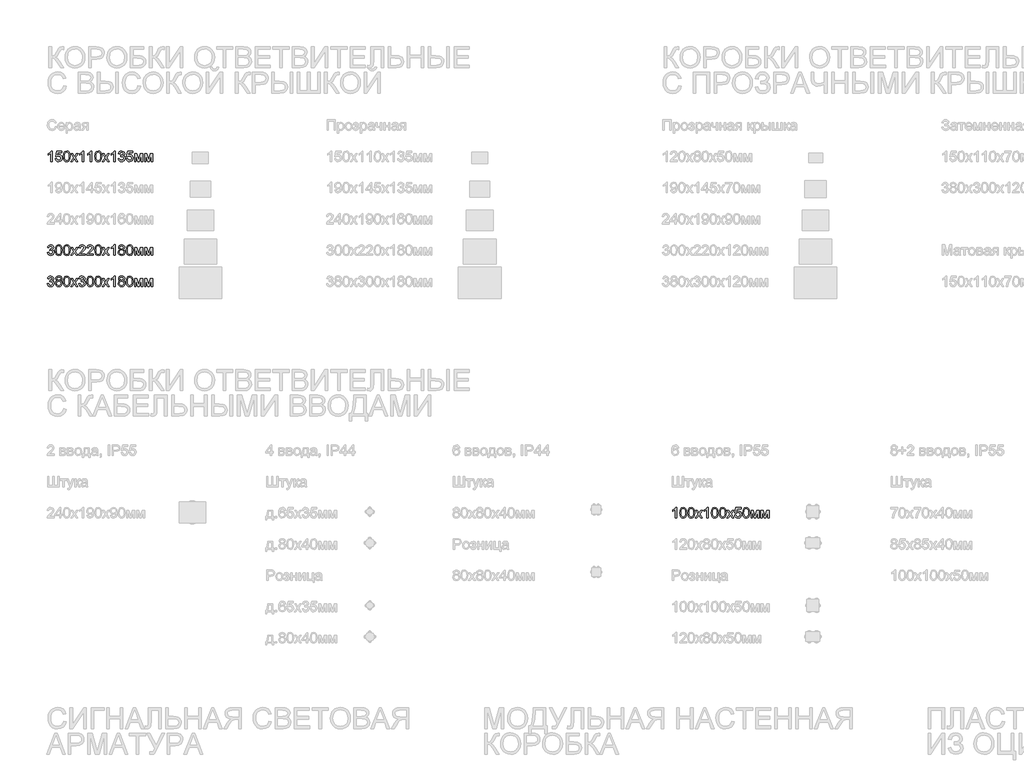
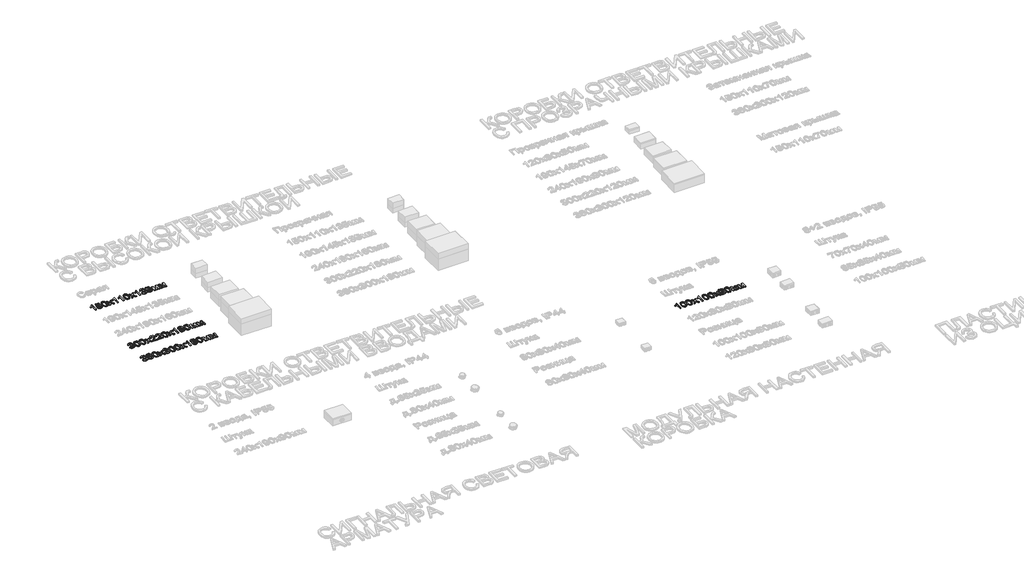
# One storey, part 16 of 98: 4 proxies.
"""IFC4 building model written with IfcOpenShell, lengths in millimetres."""

import ifcopenshell
import ifcopenshell.guid

model = None  # the IFC model being written
_history = None  # IfcOwnerHistory: only IFC2X3 demands one
_inside = {}  # id of a spatial element -> (the spatial element, [elements in it])
_under = {}  # id of a project, library or spatial element -> (it, [spatial elements below it])
_declared = {}  # id of a project -> (the project, [libraries it declares])
_typed = {}  # id of a type object -> (the type object, [elements of that type])
_made_of = {}  # id of a material, layer set ... -> (it, [elements and type objects made of it])


def new_model(schema):
    """Start an empty IFC model of exactly this schema.

    Asked for "IFC4X3", IfcOpenShell would pick the latest addendum, in which some entities
    have other attributes; the version numbers below select the first issue.
    IFC2X3 requires an IfcOwnerHistory on every rooted entity: one is made here for all.
    """
    global model, _history
    if schema == "IFC4X3":
        model = ifcopenshell.file(schema_version=(4, 3, 0, 0))
    else:
        model = ifcopenshell.file(schema=schema)
    _inside.clear()
    _under.clear()
    _declared.clear()
    _typed.clear()
    _made_of.clear()
    _history = None
    if model.schema == "IFC2X3":
        org = make("IfcOrganization", Name="unknown")
        user = make(
            "IfcPersonAndOrganization",
            ThePerson=make("IfcPerson", FamilyName="unknown"),
            TheOrganization=org,
        )
        app = make(
            "IfcApplication",
            ApplicationDeveloper=org,
            Version="unknown",
            ApplicationFullName="unknown",
            ApplicationIdentifier="unknown",
        )
        _history = make(
            "IfcOwnerHistory",
            OwningUser=user,
            OwningApplication=app,
            ChangeAction="ADDED",
            CreationDate=0,
        )
    return model


def make(cls, **values):
    """One entity of the class cls with the attributes given. An attribute that is None is left unset."""
    return model.create_entity(
        cls, **{name: value for name, value in values.items() if value is not None}
    )


def rooted(cls, **values):
    """An entity with a GlobalId (a new one), such as an element, a storey or a relation."""
    return make(cls, GlobalId=ifcopenshell.guid.new(), OwnerHistory=_history, **values)


def si_unit(unit_type, name, prefix=None):
    """IfcSIUnit, for example si_unit("LENGTHUNIT", "METRE", prefix="MILLI")."""
    return make("IfcSIUnit", UnitType=unit_type, Prefix=prefix, Name=name)


def assignment(units):
    """IfcUnitAssignment: the units of a project."""
    return None if units is None else make("IfcUnitAssignment", Units=units)


def point(xyz):
    """IfcCartesianPoint."""
    return None if xyz is None else make("IfcCartesianPoint", Coordinates=xyz)


def direction(xyz):
    """IfcDirection."""
    return None if xyz is None else make("IfcDirection", DirectionRatios=xyz)


def frame(location, z_axis=None, x_axis=None):
    """IfcAxis2Placement3D, a coordinate frame: its origin and axes. An axis left out is left unset."""
    return make(
        "IfcAxis2Placement3D",
        Location=point(location),
        Axis=direction(z_axis),
        RefDirection=direction(x_axis),
    )


def origin():
    """The frame at (0, 0, 0) with its axes left unset."""
    return frame((0.0, 0.0, 0.0))


def origin_with_axes():
    """The frame at (0, 0, 0) with the z axis (0, 0, 1) and the x axis (1, 0, 0) written out."""
    return frame((0.0, 0.0, 0.0), z_axis=(0.0, 0.0, 1.0), x_axis=(1.0, 0.0, 0.0))


def place(relative_to, where):
    """IfcLocalPlacement: puts the frame where relative to a parent placement (None: the world)."""
    return make(
        "IfcLocalPlacement", PlacementRelTo=relative_to, RelativePlacement=where
    )


def context(
    kind, dimensions, precision=None, world=None, true_north=None, identifier=None
):
    """IfcGeometricRepresentationContext, for example the 3D "Model" context."""
    return make(
        "IfcGeometricRepresentationContext",
        ContextIdentifier=identifier,
        ContextType=kind,
        CoordinateSpaceDimension=dimensions,
        Precision=precision,
        WorldCoordinateSystem=world,
        TrueNorth=true_north,
    )


def project(units=None, contexts=None):
    """IfcProject with its units and contexts."""
    return rooted(
        "IfcProject",
        Name="project",
        RepresentationContexts=contexts,
        UnitsInContext=assignment(units),
    )


def spatial(cls, under=None, at=None, **own):
    """A site, building, storey or space (cls), placed at a placement, below another one or the project."""
    s = rooted(cls, ObjectPlacement=at, **own)
    if under is not None:
        _under.setdefault(under.id(), (under, []))[1].append(s)
    return s


def polyline(points):
    """IfcPolyline through the points."""
    return make("IfcPolyline", Points=[point(p) for p in points])


def outline(outer, holes=None, kind="AREA"):
    """IfcArbitraryClosedProfileDef: a profile drawn as a closed curve; with holes, ...WithVoids."""
    if holes is None:
        return make("IfcArbitraryClosedProfileDef", ProfileType=kind, OuterCurve=outer)
    return make(
        "IfcArbitraryProfileDefWithVoids",
        ProfileType=kind,
        OuterCurve=outer,
        InnerCurves=holes,
    )


def extrude(swept, where, along, depth):
    """IfcExtrudedAreaSolid: the profile swept, set in the frame where, extruded along a direction by depth."""
    return make(
        "IfcExtrudedAreaSolid",
        SweptArea=swept,
        Position=where,
        ExtrudedDirection=direction(along),
        Depth=depth,
    )


def shape(context_of_items, identifier, shape_type, items):
    """IfcShapeRepresentation: the items that make up one representation, for example the "Body"."""
    return make(
        "IfcShapeRepresentation",
        ContextOfItems=context_of_items,
        RepresentationIdentifier=identifier,
        RepresentationType=shape_type,
        Items=items,
    )


def made_of(thing, what):
    """Note that an element or type object is made of a material, layer set ...; save() writes the relation."""
    if what is not None:
        _made_of.setdefault(what.id(), (what, []))[1].append(thing)
    return thing


def element(
    cls,
    number,
    at=None,
    inside=None,
    cuts=None,
    type_object=None,
    material=None,
    context=None,
    identifier="Body",
    shape_type=None,
    held_by="IfcProductDefinitionShape",
    body=None,
    shapes=None,
    **own,
):
    """One element of the class cls, such as IfcWall. Its Tag is "e" and its number.

    at: its placement. inside: the storey or other place that contains it. cuts: it is an
    opening in that element (IfcRelVoidsElement). A single representation is given by context,
    identifier, shape_type and body (its items); several are given by shapes. held_by: the class
    of the entity that holds the representations. save() writes the other relations.
    """
    e = rooted(cls, Tag="e%d" % number, ObjectPlacement=at, **own)
    if body is not None:
        shapes = [shape(context, identifier, shape_type, body)]
    if shapes is not None:
        e.Representation = make(held_by, Representations=shapes)
    if inside is not None:
        _inside.setdefault(inside.id(), (inside, []))[1].append(e)
    if cuts is not None:
        rooted(
            "IfcRelVoidsElement", RelatingBuildingElement=cuts, RelatedOpeningElement=e
        )
    if type_object is not None:
        _typed.setdefault(type_object.id(), (type_object, []))[1].append(e)
    return made_of(e, material)


def aggregate(whole, parts):
    """IfcRelAggregates: a whole, such as a stair, and the parts it consists of."""
    return rooted("IfcRelAggregates", RelatingObject=whole, RelatedObjects=parts)


def save(model, path):
    """Write the relations noted so far, then the file.

    IfcRelAggregates (storeys below a building ...), IfcRelContainedInSpatialStructure (elements
    in a storey), IfcRelDefinesByType, IfcRelAssociatesMaterial and IfcRelDeclares: one each for
    every whole, place, type object, material and project.
    """
    for whole, parts in _under.values():
        aggregate(whole, parts)
    for where, things in _inside.values():
        rooted(
            "IfcRelContainedInSpatialStructure",
            RelatedElements=things,
            RelatingStructure=where,
        )
    for kind, things in _typed.values():
        rooted("IfcRelDefinesByType", RelatedObjects=things, RelatingType=kind)
    for what, things in _made_of.values():
        rooted("IfcRelAssociatesMaterial", RelatedObjects=things, RelatingMaterial=what)
    for by, libraries in _declared.values():
        rooted("IfcRelDeclares", RelatingContext=by, RelatedDefinitions=libraries)
    model.write(path)


model = new_model("IFC4")

# Units and contexts
model_context = context("Model", 3, world=origin())
ifc_project = project(units=[si_unit("LENGTHUNIT", "METRE", prefix="MILLI")], contexts=[model_context])

# Site, building, storey
site = spatial("IfcSite", under=ifc_project)
building = spatial("IfcBuilding", under=site)
storey = spatial("IfcBuildingStorey", under=building, Name="Этаж 01", Elevation=0.0)

# Proxies
placement = place(None, origin())
element("IfcBuildingElementProxy", 1, Name="100", ObjectType="100", at=placement, inside=storey, context=model_context, shape_type="SweptSolid", body=[
    extrude(outline(polyline([(5.9764133, -42337.5373486), (-6.5806255, -42337.5373486), (-6.5806255, -42259.25206), (-18.4754766, -42267.7256087), (-31.694703, -42274.0654417), (-31.694703, -42262.195116), (-13.2883405, -42250.4474176), (-2.1169906, -42237.0810385), (5.9764133, -42237.0810385), (5.9764133, -42337.5373486)])), origin_with_axes(), (0.0, 0.0, 1.0), 10.0),
    extrude(outline(polyline([(35.7993804, -42310.8536412), (48.3564191, -42309.2840114), (54.6839895, -42322.2211949), (67.805114, -42326.5499397), (76.8059601, -42325.0446892), (83.5504633, -42320.5289377), (87.7627122, -42313.5238514), (89.1667951, -42304.5505964), (83.9060826, -42289.6391128), (77.2995351, -42285.5372286), (68.0013177, -42284.1699338), (56.9771206, -42286.3527004), (49.926049, -42292.0180831), (37.3690102, -42290.4484532), (48.3564191, -42238.6506683), (97.0149444, -42238.6506683), (97.0149444, -42251.2077071), (58.5099622, -42251.2077071), (53.1388851, -42278.8724331), (62.1090744, -42273.4277796), (71.5084594, -42271.6128951), (83.2408293, -42273.8631066), (92.9805052, -42280.6137412), (99.5380017, -42290.9021744), (101.7238339, -42303.7657815), (99.7556652, -42316.3228202), (93.8511592, -42327.0649745), (82.5449192, -42336.0964775), (67.756063, -42339.1069785), (55.4228191, -42337.1725323), (45.5973042, -42331.3691938), (38.861998, -42322.3714134), (35.7993804, -42310.8536412)])), origin_with_axes(), (0.0, 0.0, 1.0), 10.0),
    extrude(outline(polyline([(112.7112428, -42288.1185339), (116.4023255, -42259.2152718), (127.365209, -42242.5502175), (145.6734696, -42237.0810385), (160.3396985, -42240.3184), (170.4687161, -42249.65034), (176.354828, -42264.5127726), (178.6356964, -42288.1185339), (174.9814019, -42316.8991687), (164.0553066, -42333.6010113), (155.823947, -42337.7304867), (145.6734696, -42339.1069785), (132.6259215, -42336.7157455), (122.7176331, -42329.5420466), (115.2128404, -42312.5520298), (112.7112428, -42288.1185339)]), holes=[polyline([(125.2682816, -42288.0940085), (126.7398096, -42307.8462059), (131.1543935, -42319.2781389), (137.7272185, -42324.7319895), (145.6734696, -42326.5499397), (153.6197207, -42324.7258581), (160.1925457, -42319.2536135), (164.6071296, -42307.8155491), (166.0786576, -42288.0940085), (164.6561806, -42268.7863351), (160.3887494, -42257.2654973), (153.8281872, -42251.5449322), (145.5263168, -42249.6380772), (137.6659048, -42251.3180717), (131.3505973, -42256.358055), (126.7888605, -42268.5962627), (125.2682816, -42288.0940085)])]), origin_with_axes(), (0.0, 0.0, 1.0), 10.0),
    extrude(outline(polyline([(184.9142158, -42337.5373486), (211.7450759, -42300.4548435), (186.4838456, -42263.7647458), (201.5915329, -42263.7647458), (213.7806896, -42281.4230816), (219.4705978, -42289.7617402), (224.4002166, -42282.9436605), (238.2816305, -42263.7647458), (253.3893178, -42263.7647458), (226.8527632, -42300.4548435), (252.4082991, -42337.5373486), (237.3006119, -42337.5373486), (221.9231445, -42315.2436997), (219.1027158, -42311.1724723), (200.021903, -42337.5373486), (184.9142158, -42337.5373486)])), origin_with_axes(), (0.0, 0.0, 1.0), 10.0),
    extrude(outline(polyline([(307.3453437, -42337.5373486), (294.788305, -42337.5373486), (294.788305, -42259.25206), (282.8934538, -42267.7256087), (269.6742274, -42274.0654417), (269.6742274, -42262.195116), (288.0805899, -42250.4474176), (299.2519399, -42237.0810385), (307.3453437, -42237.0810385), (307.3453437, -42337.5373486)])), origin_with_axes(), (0.0, 0.0, 1.0), 10.0),
    extrude(outline(polyline([(384.2572062, -42337.5373486), (371.7001674, -42337.5373486), (371.7001674, -42259.25206), (359.8053163, -42267.7256087), (346.5860899, -42274.0654417), (346.5860899, -42262.195116), (364.9924524, -42250.4474176), (376.1638023, -42237.0810385), (384.2572062, -42237.0810385), (384.2572062, -42337.5373486)])), origin_with_axes(), (0.0, 0.0, 1.0), 10.0),
    extrude(outline(polyline([(414.0801733, -42288.1185339), (417.771256, -42259.2152718), (428.7341394, -42242.5502175), (447.0424, -42237.0810385), (461.7086289, -42240.3184), (471.8376465, -42249.65034), (477.7237584, -42264.5127726), (480.0046268, -42288.1185339), (476.3503323, -42316.8991687), (465.4242371, -42333.6010113), (457.1928774, -42337.7304867), (447.0424, -42339.1069785), (433.994852, -42336.7157455), (424.0865635, -42329.5420466), (416.5817708, -42312.5520298), (414.0801733, -42288.1185339)]), holes=[polyline([(426.637212, -42288.0940085), (428.10874, -42307.8462059), (432.523324, -42319.2781389), (439.096149, -42324.7319895), (447.0424, -42326.5499397), (454.9886511, -42324.7258581), (461.5614761, -42319.2536135), (465.9760601, -42307.8155491), (467.447588, -42288.0940085), (466.025111, -42268.7863351), (461.7576799, -42257.2654973), (455.1971176, -42251.5449322), (446.8952472, -42249.6380772), (439.0348353, -42251.3180717), (432.7195277, -42256.358055), (428.157791, -42268.5962627), (426.637212, -42288.0940085)])]), origin_with_axes(), (0.0, 0.0, 1.0), 10.0),
    extrude(outline(polyline([(486.2831462, -42337.5373486), (513.1140064, -42300.4548435), (487.852776, -42263.7647458), (502.9604633, -42263.7647458), (515.1496201, -42281.4230816), (520.8395283, -42289.7617402), (525.769147, -42282.9436605), (539.650561, -42263.7647458), (554.7582482, -42263.7647458), (528.2216937, -42300.4548435), (553.7772296, -42337.5373486), (538.6695423, -42337.5373486), (523.2920749, -42315.2436997), (520.4716463, -42311.1724723), (501.3908335, -42337.5373486), (486.2831462, -42337.5373486)])), origin_with_axes(), (0.0, 0.0, 1.0), 10.0),
    extrude(outline(polyline([(608.7142742, -42337.5373486), (596.1572354, -42337.5373486), (596.1572354, -42259.25206), (584.2623842, -42267.7256087), (571.0431579, -42274.0654417), (571.0431579, -42262.195116), (589.4495204, -42250.4474176), (600.6208703, -42237.0810385), (608.7142742, -42237.0810385), (608.7142742, -42337.5373486)])), origin_with_axes(), (0.0, 0.0, 1.0), 10.0),
    extrude(outline(polyline([(638.5372413, -42310.8536412), (651.09428, -42309.2840114), (658.0227243, -42322.5032377), (670.9844332, -42326.5499397), (679.5928719, -42325.1581195), (686.2392733, -42320.9826588), (691.904656, -42307.1993467), (686.2883242, -42294.2131123), (672.0145028, -42289.0750271), (663.2098604, -42290.4484532), (664.607812, -42277.8914145), (666.6189002, -42278.0385673), (680.8681962, -42274.4333237), (685.6138739, -42269.8593242), (687.1957665, -42263.3478129), (682.6095043, -42253.5253636), (670.7882295, -42249.6380772), (658.8198019, -42253.5621518), (652.6639099, -42265.3343757), (640.1068711, -42263.7647458), (643.8040852, -42252.4891627), (650.3830415, -42244.0707964), (659.3838877, -42238.8284779), (670.3467711, -42237.0810385), (685.4912466, -42240.5268665), (696.086248, -42249.9446456), (699.7528053, -42262.6120489), (696.270189, -42274.188069), (685.9694932, -42282.5022021), (699.6547034, -42291.0861154), (704.4616948, -42307.4200759), (702.0581991, -42319.6582836), (694.847712, -42329.8854031), (683.9645363, -42336.8015846), (670.5429749, -42339.1069785), (658.402869, -42337.1388098), (648.5191061, -42331.2343038), (641.6458441, -42322.2028008), (638.5372413, -42310.8536412)])), origin_with_axes(), (0.0, 0.0, 1.0), 10.0),
    extrude(outline(polyline([(715.4491037, -42310.8536412), (728.0061425, -42309.2840114), (734.3337128, -42322.2211949), (747.4548373, -42326.5499397), (756.4556835, -42325.0446892), (763.2001867, -42320.5289377), (767.4124355, -42313.5238514), (768.8165185, -42304.5505964), (763.555806, -42289.6391128), (756.9492585, -42285.5372286), (747.651041, -42284.1699338), (736.6268439, -42286.3527004), (729.5757723, -42292.0180831), (717.0187336, -42290.4484532), (728.0061425, -42238.6506683), (776.6646677, -42238.6506683), (776.6646677, -42251.2077071), (738.1596856, -42251.2077071), (732.7886084, -42278.8724331), (741.7587978, -42273.4277796), (751.1581827, -42271.6128951), (762.8905527, -42273.8631066), (772.6302285, -42280.6137412), (779.1877251, -42290.9021744), (781.3735573, -42303.7657815), (779.4053886, -42316.3228202), (773.5008826, -42327.0649745), (762.1946426, -42336.0964775), (747.4057864, -42339.1069785), (735.0725425, -42337.1725323), (725.2470275, -42331.3691938), (718.5117213, -42322.3714134), (715.4491037, -42310.8536412)])), origin_with_axes(), (0.0, 0.0, 1.0), 10.0),
    extrude(outline(polyline([(795.5002259, -42263.7647458), (817.1071617, -42263.7647458), (833.7599534, -42322.8220688), (851.7125947, -42263.7647458), (872.4120883, -42263.7647458), (872.4120883, -42337.5373486), (859.8550496, -42337.5373486), (859.8550496, -42278.1366691), (841.8043063, -42337.5373486), (825.323193, -42337.5373486), (808.0572646, -42275.291715), (808.0572646, -42337.5373486), (795.5002259, -42337.5373486), (795.5002259, -42263.7647458)])), origin_with_axes(), (0.0, 0.0, 1.0), 10.0),
    extrude(outline(polyline([(891.2476465, -42263.7647458), (912.8545823, -42263.7647458), (929.507374, -42322.8220688), (947.4600154, -42263.7647458), (968.1595089, -42263.7647458), (968.1595089, -42337.5373486), (955.6024702, -42337.5373486), (955.6024702, -42278.1366691), (937.551727, -42337.5373486), (921.0706136, -42337.5373486), (903.8046853, -42275.291715), (903.8046853, -42337.5373486), (891.2476465, -42337.5373486), (891.2476465, -42263.7647458)])), origin_with_axes(), (0.0, 0.0, 1.0), 10.0),
])
element("IfcBuildingElementProxy", 2, Name="100", ObjectType="100", at=placement, inside=storey, context=model_context, shape_type="SweptSolid", body=[
    extrude(outline(polyline([(-41.1124821, -43210.8536412), (-28.5554433, -43209.2840114), (-21.6269991, -43222.5032377), (-8.6652901, -43226.5499397), (-0.0568514, -43225.1581195), (6.58955, -43220.9826588), (12.2549327, -43207.1993467), (6.6386009, -43194.2131123), (-7.6352205, -43189.0750271), (-16.4398629, -43190.4484532), (-15.0419114, -43177.8914145), (-13.0308231, -43178.0385673), (1.2184728, -43174.4333237), (5.9641506, -43169.8593242), (7.5460431, -43163.3478129), (2.9597809, -43153.5253636), (-8.8614938, -43149.6380772), (-20.8299214, -43153.5621518), (-26.9858135, -43165.3343757), (-39.5428522, -43163.7647458), (-35.8456382, -43152.4891627), (-29.2666818, -43144.0707964), (-20.2658357, -43138.8284779), (-9.3029522, -43137.0810385), (5.8415232, -43140.5268665), (16.4365247, -43149.9446456), (20.1030819, -43162.6120489), (16.6204657, -43174.188069), (6.3197698, -43182.5022021), (20.00498, -43191.0861154), (24.8119715, -43207.4200759), (22.4084757, -43219.6582836), (15.1979886, -43229.8854031), (4.314813, -43236.8015846), (-9.1067485, -43239.1069785), (-21.2468543, -43237.1388098), (-31.1306173, -43231.2343038), (-38.0038792, -43222.2028008), (-41.1124821, -43210.8536412)])), origin_with_axes(), (0.0, 0.0, 1.0), 10.0),
    extrude(outline(polyline([(35.7993804, -43188.1185339), (39.4904631, -43159.2152718), (50.4533465, -43142.5502175), (68.7616071, -43137.0810385), (83.427836, -43140.3184), (93.5568536, -43149.65034), (99.4429655, -43164.5127726), (101.7238339, -43188.1185339), (98.0695394, -43216.8991687), (87.1434442, -43233.6010113), (78.9120845, -43237.7304867), (68.7616071, -43239.1069785), (55.714059, -43236.7157455), (45.8057706, -43229.5420466), (38.3009779, -43212.5520298), (35.7993804, -43188.1185339)]), holes=[polyline([(48.3564191, -43188.0940085), (49.8279471, -43207.8462059), (54.2425311, -43219.2781389), (60.815356, -43224.7319895), (68.7616071, -43226.5499397), (76.7078582, -43224.7258581), (83.2806832, -43219.2536135), (87.6952672, -43207.8155491), (89.1667951, -43188.0940085), (87.7443181, -43168.7863351), (83.4768869, -43157.2654973), (76.9163247, -43151.5449322), (68.6144543, -43149.6380772), (60.7540424, -43151.3180717), (54.4387348, -43156.358055), (49.8769981, -43168.5962627), (48.3564191, -43188.0940085)])]), origin_with_axes(), (0.0, 0.0, 1.0), 10.0),
    extrude(outline(polyline([(112.7112428, -43188.1185339), (116.4023255, -43159.2152718), (127.365209, -43142.5502175), (145.6734696, -43137.0810385), (160.3396985, -43140.3184), (170.4687161, -43149.65034), (176.354828, -43164.5127726), (178.6356964, -43188.1185339), (174.9814019, -43216.8991687), (164.0553066, -43233.6010113), (155.823947, -43237.7304867), (145.6734696, -43239.1069785), (132.6259215, -43236.7157455), (122.7176331, -43229.5420466), (115.2128404, -43212.5520298), (112.7112428, -43188.1185339)]), holes=[polyline([(125.2682816, -43188.0940085), (126.7398096, -43207.8462059), (131.1543935, -43219.2781389), (137.7272185, -43224.7319895), (145.6734696, -43226.5499397), (153.6197207, -43224.7258581), (160.1925457, -43219.2536135), (164.6071296, -43207.8155491), (166.0786576, -43188.0940085), (164.6561806, -43168.7863351), (160.3887494, -43157.2654973), (153.8281872, -43151.5449322), (145.5263168, -43149.6380772), (137.6659048, -43151.3180717), (131.3505973, -43156.358055), (126.7888605, -43168.5962627), (125.2682816, -43188.0940085)])]), origin_with_axes(), (0.0, 0.0, 1.0), 10.0),
    extrude(outline(polyline([(184.9142158, -43237.5373486), (211.7450759, -43200.4548435), (186.4838456, -43163.7647458), (201.5915329, -43163.7647458), (213.7806896, -43181.4230816), (219.4705978, -43189.7617402), (224.4002166, -43182.9436605), (238.2816305, -43163.7647458), (253.3893178, -43163.7647458), (226.8527632, -43200.4548435), (252.4082991, -43237.5373486), (237.3006119, -43237.5373486), (221.9231445, -43215.2436997), (219.1027158, -43211.1724723), (200.021903, -43237.5373486), (184.9142158, -43237.5373486)])), origin_with_axes(), (0.0, 0.0, 1.0), 10.0),
    extrude(outline(polyline([(324.6112721, -43224.9803098), (324.6112721, -43237.5373486), (258.6868185, -43237.5373486), (260.0357192, -43228.879859), (267.6631392, -43215.550268), (283.3839631, -43200.9944038), (305.0644754, -43180.074181), (310.4846034, -43165.8494105), (305.3710437, -43154.334704), (292.0169273, -43149.6380772), (278.0987251, -43154.2243394), (272.8134871, -43166.9040055), (260.2564484, -43165.3343757), (263.3006719, -43153.1881385), (269.8826939, -43144.316051), (279.6591579, -43138.8897916), (292.2867074, -43137.0810385), (305.0062274, -43139.0921267), (314.7642973, -43145.1253914), (320.972306, -43154.1385003), (323.0416422, -43165.089121), (320.8098248, -43176.9962349), (313.3908712, -43189.308019), (295.4014416, -43206.5126337), (280.955942, -43218.5914259), (275.2905592, -43224.9803098), (324.6112721, -43224.9803098)])), origin_with_axes(), (0.0, 0.0, 1.0), 10.0),
    extrude(outline(polyline([(401.5231345, -43224.9803098), (401.5231345, -43237.5373486), (335.598681, -43237.5373486), (336.9475816, -43228.879859), (344.5750017, -43215.550268), (360.2958256, -43200.9944038), (381.9763378, -43180.074181), (387.3964659, -43165.8494105), (382.2829062, -43154.334704), (368.9287897, -43149.6380772), (355.0105876, -43154.2243394), (349.7253496, -43166.9040055), (337.1683108, -43165.3343757), (340.2125343, -43153.1881385), (346.7945564, -43144.316051), (356.5710204, -43138.8897916), (369.1985699, -43137.0810385), (381.9180899, -43139.0921267), (391.6761598, -43145.1253914), (397.8841684, -43154.1385003), (399.9535047, -43165.089121), (397.7216872, -43176.9962349), (390.3027337, -43189.308019), (372.3133041, -43206.5126337), (357.8678044, -43218.5914259), (352.2024217, -43224.9803098), (401.5231345, -43224.9803098)])), origin_with_axes(), (0.0, 0.0, 1.0), 10.0),
    extrude(outline(polyline([(414.0801733, -43188.1185339), (417.771256, -43159.2152718), (428.7341394, -43142.5502175), (447.0424, -43137.0810385), (461.7086289, -43140.3184), (471.8376465, -43149.65034), (477.7237584, -43164.5127726), (480.0046268, -43188.1185339), (476.3503323, -43216.8991687), (465.4242371, -43233.6010113), (457.1928774, -43237.7304867), (447.0424, -43239.1069785), (433.994852, -43236.7157455), (424.0865635, -43229.5420466), (416.5817708, -43212.5520298), (414.0801733, -43188.1185339)]), holes=[polyline([(426.637212, -43188.0940085), (428.10874, -43207.8462059), (432.523324, -43219.2781389), (439.096149, -43224.7319895), (447.0424, -43226.5499397), (454.9886511, -43224.7258581), (461.5614761, -43219.2536135), (465.9760601, -43207.8155491), (467.447588, -43188.0940085), (466.025111, -43168.7863351), (461.7576799, -43157.2654973), (455.1971176, -43151.5449322), (446.8952472, -43149.6380772), (439.0348353, -43151.3180717), (432.7195277, -43156.358055), (428.157791, -43168.5962627), (426.637212, -43188.0940085)])]), origin_with_axes(), (0.0, 0.0, 1.0), 10.0),
    extrude(outline(polyline([(486.2831462, -43237.5373486), (513.1140064, -43200.4548435), (487.852776, -43163.7647458), (502.9604633, -43163.7647458), (515.1496201, -43181.4230816), (520.8395283, -43189.7617402), (525.769147, -43182.9436605), (539.650561, -43163.7647458), (554.7582482, -43163.7647458), (528.2216937, -43200.4548435), (553.7772296, -43237.5373486), (538.6695423, -43237.5373486), (523.2920749, -43215.2436997), (520.4716463, -43211.1724723), (501.3908335, -43237.5373486), (486.2831462, -43237.5373486)])), origin_with_axes(), (0.0, 0.0, 1.0), 10.0),
    extrude(outline(polyline([(608.7142742, -43237.5373486), (596.1572354, -43237.5373486), (596.1572354, -43159.25206), (584.2623842, -43167.7256087), (571.0431579, -43174.0654417), (571.0431579, -43162.195116), (589.4495204, -43150.4474176), (600.6208703, -43137.0810385), (608.7142742, -43137.0810385), (608.7142742, -43237.5373486)])), origin_with_axes(), (0.0, 0.0, 1.0), 10.0),
    extrude(outline(polyline([(656.8332392, -43182.2078965), (645.3921091, -43174.4087982), (641.676501, -43162.2686924), (643.6998519, -43152.4523745), (649.7699049, -43144.3405765), (659.206078, -43138.895923), (671.3277898, -43137.0810385), (683.5230779, -43138.9388425), (693.0818784, -43144.5122548), (699.2622959, -43152.7528115), (701.3224351, -43162.6120489), (697.6558779, -43174.4455864), (686.5335789, -43182.2078965), (699.8876953, -43192.0548713), (704.4616948, -43208.3029927), (702.1930892, -43220.3082085), (695.3872723, -43230.2287596), (684.8781099, -43236.8874238), (671.499468, -43239.1069785), (658.1208261, -43236.8782267), (647.6116638, -43230.1919714), (640.8058469, -43220.1763841), (638.5372413, -43207.9596362), (643.2951817, -43191.33137), (656.8332392, -43182.2078965)]), holes=[polyline([(654.2335397, -43162.6365744), (658.6849119, -43172.4958119), (671.6466208, -43176.3217846), (684.3508124, -43172.5203373), (688.7653963, -43163.2006601), (684.2036596, -43153.5498891), (671.499468, -43149.6380772), (658.7584883, -43153.46405), (654.2335397, -43162.6365744)]), polyline([(651.09428, -43207.5181778), (653.1912074, -43216.9727451), (660.610161, -43224.0483421), (671.5975699, -43226.5499397), (680.1446949, -43225.2347616), (686.5581044, -43221.2892272), (691.904656, -43207.9105853), (686.3864261, -43194.274426), (679.8258639, -43190.227724), (671.180637, -43188.8788234), (662.7530736, -43190.2093299), (656.4040435, -43194.2008496), (651.09428, -43207.5181778)])]), origin_with_axes(), (0.0, 0.0, 1.0), 10.0),
    extrude(outline(polyline([(715.4491037, -43188.1185339), (719.1401864, -43159.2152718), (730.1030699, -43142.5502175), (748.4113305, -43137.0810385), (763.0775594, -43140.3184), (773.206577, -43149.65034), (779.0926889, -43164.5127726), (781.3735573, -43188.1185339), (777.7192628, -43216.8991687), (766.7931675, -43233.6010113), (758.5618079, -43237.7304867), (748.4113305, -43239.1069785), (735.3637824, -43236.7157455), (725.455494, -43229.5420466), (717.9507013, -43212.5520298), (715.4491037, -43188.1185339)]), holes=[polyline([(728.0061425, -43188.0940085), (729.4776705, -43207.8462059), (733.8922544, -43219.2781389), (740.4650794, -43224.7319895), (748.4113305, -43226.5499397), (756.3575816, -43224.7258581), (762.9304066, -43219.2536135), (767.3449905, -43207.8155491), (768.8165185, -43188.0940085), (767.3940414, -43168.7863351), (763.1266103, -43157.2654973), (756.5660481, -43151.5449322), (748.2641777, -43149.6380772), (740.4037657, -43151.3180717), (734.0884582, -43156.358055), (729.5267214, -43168.5962627), (728.0061425, -43188.0940085)])]), origin_with_axes(), (0.0, 0.0, 1.0), 10.0),
    extrude(outline(polyline([(795.5002259, -43163.7647458), (817.1071617, -43163.7647458), (833.7599534, -43222.8220688), (851.7125947, -43163.7647458), (872.4120883, -43163.7647458), (872.4120883, -43237.5373486), (859.8550496, -43237.5373486), (859.8550496, -43178.1366691), (841.8043063, -43237.5373486), (825.323193, -43237.5373486), (808.0572646, -43175.291715), (808.0572646, -43237.5373486), (795.5002259, -43237.5373486), (795.5002259, -43163.7647458)])), origin_with_axes(), (0.0, 0.0, 1.0), 10.0),
    extrude(outline(polyline([(891.2476465, -43163.7647458), (912.8545823, -43163.7647458), (929.507374, -43222.8220688), (947.4600154, -43163.7647458), (968.1595089, -43163.7647458), (968.1595089, -43237.5373486), (955.6024702, -43237.5373486), (955.6024702, -43178.1366691), (937.551727, -43237.5373486), (921.0706136, -43237.5373486), (903.8046853, -43175.291715), (903.8046853, -43237.5373486), (891.2476465, -43237.5373486), (891.2476465, -43163.7647458)])), origin_with_axes(), (0.0, 0.0, 1.0), 10.0),
])
element("IfcBuildingElementProxy", 3, Name="100", ObjectType="100", at=placement, inside=storey, context=model_context, shape_type="SweptSolid", body=[
    extrude(outline(polyline([(-41.1124821, -43510.8536412), (-28.5554433, -43509.2840114), (-21.6269991, -43522.5032377), (-8.6652901, -43526.5499397), (-0.0568514, -43525.1581195), (6.58955, -43520.9826588), (12.2549327, -43507.1993467), (6.6386009, -43494.2131123), (-7.6352205, -43489.0750271), (-16.4398629, -43490.4484532), (-15.0419114, -43477.8914145), (-13.0308231, -43478.0385673), (1.2184728, -43474.4333237), (5.9641506, -43469.8593242), (7.5460431, -43463.3478129), (2.9597809, -43453.5253636), (-8.8614938, -43449.6380772), (-20.8299214, -43453.5621518), (-26.9858135, -43465.3343757), (-39.5428522, -43463.7647458), (-35.8456382, -43452.4891627), (-29.2666818, -43444.0707964), (-20.2658357, -43438.8284779), (-9.3029522, -43437.0810385), (5.8415232, -43440.5268665), (16.4365247, -43449.9446456), (20.1030819, -43462.6120489), (16.6204657, -43474.188069), (6.3197698, -43482.5022021), (20.00498, -43491.0861154), (24.8119715, -43507.4200759), (22.4084757, -43519.6582836), (15.1979886, -43529.8854031), (4.314813, -43536.8015846), (-9.1067485, -43539.1069785), (-21.2468543, -43537.1388098), (-31.1306173, -43531.2343038), (-38.0038792, -43522.2028008), (-41.1124821, -43510.8536412)])), origin_with_axes(), (0.0, 0.0, 1.0), 10.0),
    extrude(outline(polyline([(54.0953783, -43482.2078965), (42.6542482, -43474.4087982), (38.9386401, -43462.2686924), (40.961991, -43452.4523745), (47.032044, -43444.3405765), (56.4682171, -43438.895923), (68.5899289, -43437.0810385), (80.785217, -43438.9388425), (90.3440175, -43444.5122548), (96.524435, -43452.7528115), (98.5845742, -43462.6120489), (94.918017, -43474.4455864), (83.795718, -43482.2078965), (97.1498344, -43492.0548713), (101.7238339, -43508.3029927), (99.4552283, -43520.3082085), (92.6494114, -43530.2287596), (82.140249, -43536.8874238), (68.7616071, -43539.1069785), (55.3829652, -43536.8782267), (44.8738029, -43530.1919714), (38.067986, -43520.1763841), (35.7993804, -43507.9596362), (40.5573208, -43491.33137), (54.0953783, -43482.2078965)]), holes=[polyline([(51.4956788, -43462.6365744), (55.947051, -43472.4958119), (68.9087599, -43476.3217846), (81.6129515, -43472.5203373), (86.0275354, -43463.2006601), (81.4657987, -43453.5498891), (68.7616071, -43449.6380772), (56.0206274, -43453.46405), (51.4956788, -43462.6365744)]), polyline([(48.3564191, -43507.5181778), (50.4533465, -43516.9727451), (57.8723001, -43524.0483421), (68.859709, -43526.5499397), (77.406834, -43525.2347616), (83.8202435, -43521.2892272), (89.1667951, -43507.9105853), (83.6485652, -43494.274426), (77.088003, -43490.227724), (68.4427761, -43488.8788234), (60.0152127, -43490.2093299), (53.6661826, -43494.2008496), (48.3564191, -43507.5181778)])]), origin_with_axes(), (0.0, 0.0, 1.0), 10.0),
    extrude(outline(polyline([(112.7112428, -43488.1185339), (116.4023255, -43459.2152718), (127.365209, -43442.5502175), (145.6734696, -43437.0810385), (160.3396985, -43440.3184), (170.4687161, -43449.65034), (176.354828, -43464.5127726), (178.6356964, -43488.1185339), (174.9814019, -43516.8991687), (164.0553066, -43533.6010113), (155.823947, -43537.7304867), (145.6734696, -43539.1069785), (132.6259215, -43536.7157455), (122.7176331, -43529.5420466), (115.2128404, -43512.5520298), (112.7112428, -43488.1185339)]), holes=[polyline([(125.2682816, -43488.0940085), (126.7398096, -43507.8462059), (131.1543935, -43519.2781389), (137.7272185, -43524.7319895), (145.6734696, -43526.5499397), (153.6197207, -43524.7258581), (160.1925457, -43519.2536135), (164.6071296, -43507.8155491), (166.0786576, -43488.0940085), (164.6561806, -43468.7863351), (160.3887494, -43457.2654973), (153.8281872, -43451.5449322), (145.5263168, -43449.6380772), (137.6659048, -43451.3180717), (131.3505973, -43456.358055), (126.7888605, -43468.5962627), (125.2682816, -43488.0940085)])]), origin_with_axes(), (0.0, 0.0, 1.0), 10.0),
    extrude(outline(polyline([(184.9142158, -43537.5373486), (211.7450759, -43500.4548435), (186.4838456, -43463.7647458), (201.5915329, -43463.7647458), (213.7806896, -43481.4230816), (219.4705978, -43489.7617402), (224.4002166, -43482.9436605), (238.2816305, -43463.7647458), (253.3893178, -43463.7647458), (226.8527632, -43500.4548435), (252.4082991, -43537.5373486), (237.3006119, -43537.5373486), (221.9231445, -43515.2436997), (219.1027158, -43511.1724723), (200.021903, -43537.5373486), (184.9142158, -43537.5373486)])), origin_with_axes(), (0.0, 0.0, 1.0), 10.0),
    extrude(outline(polyline([(260.2564484, -43510.8536412), (272.8134871, -43509.2840114), (279.7419314, -43522.5032377), (292.7036403, -43526.5499397), (301.312079, -43525.1581195), (307.9584804, -43520.9826588), (313.6238631, -43507.1993467), (308.0075313, -43494.2131123), (293.7337099, -43489.0750271), (284.9290675, -43490.4484532), (286.3270191, -43477.8914145), (288.3381073, -43478.0385673), (302.5874033, -43474.4333237), (307.333081, -43469.8593242), (308.9149736, -43463.3478129), (304.3287114, -43453.5253636), (292.5074366, -43449.6380772), (280.539009, -43453.5621518), (274.383117, -43465.3343757), (261.8260782, -43463.7647458), (265.5232923, -43452.4891627), (272.1022486, -43444.0707964), (281.1030948, -43438.8284779), (292.0659782, -43437.0810385), (307.2104537, -43440.5268665), (317.8054551, -43449.9446456), (321.4720124, -43462.6120489), (317.9893961, -43474.188069), (307.6887003, -43482.5022021), (321.3739105, -43491.0861154), (326.1809019, -43507.4200759), (323.7774062, -43519.6582836), (316.5669191, -43529.8854031), (305.6837434, -43536.8015846), (292.2621819, -43539.1069785), (280.1220761, -43537.1388098), (270.2383132, -43531.2343038), (263.3650512, -43522.2028008), (260.2564484, -43510.8536412)])), origin_with_axes(), (0.0, 0.0, 1.0), 10.0),
    extrude(outline(polyline([(337.1683108, -43488.1185339), (340.8593935, -43459.2152718), (351.822277, -43442.5502175), (370.1305376, -43437.0810385), (384.7967665, -43440.3184), (394.9257841, -43449.65034), (400.811896, -43464.5127726), (403.0927644, -43488.1185339), (399.4384699, -43516.8991687), (388.5123746, -43533.6010113), (380.281015, -43537.7304867), (370.1305376, -43539.1069785), (357.0829895, -43536.7157455), (347.1747011, -43529.5420466), (339.6699084, -43512.5520298), (337.1683108, -43488.1185339)]), holes=[polyline([(349.7253496, -43488.0940085), (351.1968776, -43507.8462059), (355.6114615, -43519.2781389), (362.1842865, -43524.7319895), (370.1305376, -43526.5499397), (378.0767887, -43524.7258581), (384.6496137, -43519.2536135), (389.0641976, -43507.8155491), (390.5357256, -43488.0940085), (389.1132485, -43468.7863351), (384.8458174, -43457.2654973), (378.2852551, -43451.5449322), (369.9833848, -43449.6380772), (362.1229728, -43451.3180717), (355.8076652, -43456.358055), (351.2459285, -43468.5962627), (349.7253496, -43488.0940085)])]), origin_with_axes(), (0.0, 0.0, 1.0), 10.0),
    extrude(outline(polyline([(414.0801733, -43488.1185339), (417.771256, -43459.2152718), (428.7341394, -43442.5502175), (447.0424, -43437.0810385), (461.7086289, -43440.3184), (471.8376465, -43449.65034), (477.7237584, -43464.5127726), (480.0046268, -43488.1185339), (476.3503323, -43516.8991687), (465.4242371, -43533.6010113), (457.1928774, -43537.7304867), (447.0424, -43539.1069785), (433.994852, -43536.7157455), (424.0865635, -43529.5420466), (416.5817708, -43512.5520298), (414.0801733, -43488.1185339)]), holes=[polyline([(426.637212, -43488.0940085), (428.10874, -43507.8462059), (432.523324, -43519.2781389), (439.096149, -43524.7319895), (447.0424, -43526.5499397), (454.9886511, -43524.7258581), (461.5614761, -43519.2536135), (465.9760601, -43507.8155491), (467.447588, -43488.0940085), (466.025111, -43468.7863351), (461.7576799, -43457.2654973), (455.1971176, -43451.5449322), (446.8952472, -43449.6380772), (439.0348353, -43451.3180717), (432.7195277, -43456.358055), (428.157791, -43468.5962627), (426.637212, -43488.0940085)])]), origin_with_axes(), (0.0, 0.0, 1.0), 10.0),
    extrude(outline(polyline([(486.2831462, -43537.5373486), (513.1140064, -43500.4548435), (487.852776, -43463.7647458), (502.9604633, -43463.7647458), (515.1496201, -43481.4230816), (520.8395283, -43489.7617402), (525.769147, -43482.9436605), (539.650561, -43463.7647458), (554.7582482, -43463.7647458), (528.2216937, -43500.4548435), (553.7772296, -43537.5373486), (538.6695423, -43537.5373486), (523.2920749, -43515.2436997), (520.4716463, -43511.1724723), (501.3908335, -43537.5373486), (486.2831462, -43537.5373486)])), origin_with_axes(), (0.0, 0.0, 1.0), 10.0),
    extrude(outline(polyline([(608.7142742, -43537.5373486), (596.1572354, -43537.5373486), (596.1572354, -43459.25206), (584.2623842, -43467.7256087), (571.0431579, -43474.0654417), (571.0431579, -43462.195116), (589.4495204, -43450.4474176), (600.6208703, -43437.0810385), (608.7142742, -43437.0810385), (608.7142742, -43537.5373486)])), origin_with_axes(), (0.0, 0.0, 1.0), 10.0),
    extrude(outline(polyline([(656.8332392, -43482.2078965), (645.3921091, -43474.4087982), (641.676501, -43462.2686924), (643.6998519, -43452.4523745), (649.7699049, -43444.3405765), (659.206078, -43438.895923), (671.3277898, -43437.0810385), (683.5230779, -43438.9388425), (693.0818784, -43444.5122548), (699.2622959, -43452.7528115), (701.3224351, -43462.6120489), (697.6558779, -43474.4455864), (686.5335789, -43482.2078965), (699.8876953, -43492.0548713), (704.4616948, -43508.3029927), (702.1930892, -43520.3082085), (695.3872723, -43530.2287596), (684.8781099, -43536.8874238), (671.499468, -43539.1069785), (658.1208261, -43536.8782267), (647.6116638, -43530.1919714), (640.8058469, -43520.1763841), (638.5372413, -43507.9596362), (643.2951817, -43491.33137), (656.8332392, -43482.2078965)]), holes=[polyline([(654.2335397, -43462.6365744), (658.6849119, -43472.4958119), (671.6466208, -43476.3217846), (684.3508124, -43472.5203373), (688.7653963, -43463.2006601), (684.2036596, -43453.5498891), (671.499468, -43449.6380772), (658.7584883, -43453.46405), (654.2335397, -43462.6365744)]), polyline([(651.09428, -43507.5181778), (653.1912074, -43516.9727451), (660.610161, -43524.0483421), (671.5975699, -43526.5499397), (680.1446949, -43525.2347616), (686.5581044, -43521.2892272), (691.904656, -43507.9105853), (686.3864261, -43494.274426), (679.8258639, -43490.227724), (671.180637, -43488.8788234), (662.7530736, -43490.2093299), (656.4040435, -43494.2008496), (651.09428, -43507.5181778)])]), origin_with_axes(), (0.0, 0.0, 1.0), 10.0),
    extrude(outline(polyline([(715.4491037, -43488.1185339), (719.1401864, -43459.2152718), (730.1030699, -43442.5502175), (748.4113305, -43437.0810385), (763.0775594, -43440.3184), (773.206577, -43449.65034), (779.0926889, -43464.5127726), (781.3735573, -43488.1185339), (777.7192628, -43516.8991687), (766.7931675, -43533.6010113), (758.5618079, -43537.7304867), (748.4113305, -43539.1069785), (735.3637824, -43536.7157455), (725.455494, -43529.5420466), (717.9507013, -43512.5520298), (715.4491037, -43488.1185339)]), holes=[polyline([(728.0061425, -43488.0940085), (729.4776705, -43507.8462059), (733.8922544, -43519.2781389), (740.4650794, -43524.7319895), (748.4113305, -43526.5499397), (756.3575816, -43524.7258581), (762.9304066, -43519.2536135), (767.3449905, -43507.8155491), (768.8165185, -43488.0940085), (767.3940414, -43468.7863351), (763.1266103, -43457.2654973), (756.5660481, -43451.5449322), (748.2641777, -43449.6380772), (740.4037657, -43451.3180717), (734.0884582, -43456.358055), (729.5267214, -43468.5962627), (728.0061425, -43488.0940085)])]), origin_with_axes(), (0.0, 0.0, 1.0), 10.0),
    extrude(outline(polyline([(795.5002259, -43463.7647458), (817.1071617, -43463.7647458), (833.7599534, -43522.8220688), (851.7125947, -43463.7647458), (872.4120883, -43463.7647458), (872.4120883, -43537.5373486), (859.8550496, -43537.5373486), (859.8550496, -43478.1366691), (841.8043063, -43537.5373486), (825.323193, -43537.5373486), (808.0572646, -43475.291715), (808.0572646, -43537.5373486), (795.5002259, -43537.5373486), (795.5002259, -43463.7647458)])), origin_with_axes(), (0.0, 0.0, 1.0), 10.0),
    extrude(outline(polyline([(891.2476465, -43463.7647458), (912.8545823, -43463.7647458), (929.507374, -43522.8220688), (947.4600154, -43463.7647458), (968.1595089, -43463.7647458), (968.1595089, -43537.5373486), (955.6024702, -43537.5373486), (955.6024702, -43478.1366691), (937.551727, -43537.5373486), (921.0706136, -43537.5373486), (903.8046853, -43475.291715), (903.8046853, -43537.5373486), (891.2476465, -43537.5373486), (891.2476465, -43463.7647458)])), origin_with_axes(), (0.0, 0.0, 1.0), 10.0),
])
element("IfcBuildingElementProxy", 4, Name="100", ObjectType="100", at=placement, inside=storey, context=model_context, shape_type="SweptSolid", body=[
    extrude(outline(polyline([(5997.5391141, -45759.5121665), (5984.9820753, -45759.5121665), (5984.9820753, -45681.2268779), (5973.0872241, -45689.7004265), (5959.8679978, -45696.0402596), (5959.8679978, -45684.1699338), (5978.2743603, -45672.4222355), (5989.4457102, -45659.0558563), (5997.5391141, -45659.0558563), (5997.5391141, -45759.5121665)])), origin_with_axes(), (0.0, 0.0, 1.0), 10.0),
    extrude(outline(polyline([(6027.3620812, -45710.0933518), (6031.0531639, -45681.1900897), (6042.0160473, -45664.5250353), (6060.3243079, -45659.0558563), (6074.9905368, -45662.2932179), (6085.1195544, -45671.6251578), (6091.0056663, -45686.4875904), (6093.2865347, -45710.0933518), (6089.6322402, -45738.8739865), (6078.706145, -45755.5758291), (6070.4747853, -45759.7053045), (6060.3243079, -45761.0817963), (6047.2767598, -45758.6905633), (6037.3684714, -45751.5168644), (6029.8636787, -45734.5268476), (6027.3620812, -45710.0933518)]), holes=[polyline([(6039.9191199, -45710.0688263), (6041.3906479, -45729.8210238), (6045.8052319, -45741.2529568), (6052.3780568, -45746.7068073), (6060.3243079, -45748.5247575), (6068.270559, -45746.700676), (6074.843384, -45741.2284313), (6079.257968, -45729.7903669), (6080.7294959, -45710.0688263), (6079.3070189, -45690.7611529), (6075.0395877, -45679.2403151), (6068.4790255, -45673.5197501), (6060.1771551, -45671.6128951), (6052.3167432, -45673.2928895), (6046.0014356, -45678.3328729), (6041.4396988, -45690.5710806), (6039.9191199, -45710.0688263)])]), origin_with_axes(), (0.0, 0.0, 1.0), 10.0),
    extrude(outline(polyline([(6104.2739436, -45710.0933518), (6107.9650263, -45681.1900897), (6118.9279098, -45664.5250353), (6137.2361704, -45659.0558563), (6151.9023993, -45662.2932179), (6162.0314169, -45671.6251578), (6167.9175288, -45686.4875904), (6170.1983972, -45710.0933518), (6166.5441027, -45738.8739865), (6155.6180074, -45755.5758291), (6147.3866478, -45759.7053045), (6137.2361704, -45761.0817963), (6124.1886223, -45758.6905633), (6114.2803339, -45751.5168644), (6106.7755412, -45734.5268476), (6104.2739436, -45710.0933518)]), holes=[polyline([(6116.8309824, -45710.0688263), (6118.3025104, -45729.8210238), (6122.7170943, -45741.2529568), (6129.2899193, -45746.7068073), (6137.2361704, -45748.5247575), (6145.1824215, -45746.700676), (6151.7552465, -45741.2284313), (6156.1698304, -45729.7903669), (6157.6413584, -45710.0688263), (6156.2188813, -45690.7611529), (6151.9514502, -45679.2403151), (6145.390888, -45673.5197501), (6137.0890176, -45671.6128951), (6129.2286056, -45673.2928895), (6122.913298, -45678.3328729), (6118.3515613, -45690.5710806), (6116.8309824, -45710.0688263)])]), origin_with_axes(), (0.0, 0.0, 1.0), 10.0),
    extrude(outline(polyline([(6176.4769165, -45759.5121665), (6203.3077767, -45722.4296613), (6178.0465464, -45685.7395637), (6193.1542337, -45685.7395637), (6205.3433904, -45703.3978995), (6211.0332986, -45711.736558), (6215.9629174, -45704.9184784), (6229.8443313, -45685.7395637), (6244.9520186, -45685.7395637), (6218.415464, -45722.4296613), (6243.9709999, -45759.5121665), (6228.8633127, -45759.5121665), (6213.4858453, -45737.2185176), (6210.6654166, -45733.1472901), (6191.5846038, -45759.5121665), (6176.4769165, -45759.5121665)])), origin_with_axes(), (0.0, 0.0, 1.0), 10.0),
    extrude(outline(polyline([(6298.9080445, -45759.5121665), (6286.3510058, -45759.5121665), (6286.3510058, -45681.2268779), (6274.4561546, -45689.7004265), (6261.2369282, -45696.0402596), (6261.2369282, -45684.1699338), (6279.6432907, -45672.4222355), (6290.8146406, -45659.0558563), (6298.9080445, -45659.0558563), (6298.9080445, -45759.5121665)])), origin_with_axes(), (0.0, 0.0, 1.0), 10.0),
    extrude(outline(polyline([(6328.7310116, -45710.0933518), (6332.4220943, -45681.1900897), (6343.3849778, -45664.5250353), (6361.6932384, -45659.0558563), (6376.3594673, -45662.2932179), (6386.4884849, -45671.6251578), (6392.3745968, -45686.4875904), (6394.6554652, -45710.0933518), (6391.0011707, -45738.8739865), (6380.0750754, -45755.5758291), (6371.8437158, -45759.7053045), (6361.6932384, -45761.0817963), (6348.6456903, -45758.6905633), (6338.7374019, -45751.5168644), (6331.2326092, -45734.5268476), (6328.7310116, -45710.0933518)]), holes=[polyline([(6341.2880504, -45710.0688263), (6342.7595784, -45729.8210238), (6347.1741623, -45741.2529568), (6353.7469873, -45746.7068073), (6361.6932384, -45748.5247575), (6369.6394895, -45746.700676), (6376.2123145, -45741.2284313), (6380.6268984, -45729.7903669), (6382.0984264, -45710.0688263), (6380.6759493, -45690.7611529), (6376.4085182, -45679.2403151), (6369.8479559, -45673.5197501), (6361.5460856, -45671.6128951), (6353.6856736, -45673.2928895), (6347.370366, -45678.3328729), (6342.8086293, -45690.5710806), (6341.2880504, -45710.0688263)])]), origin_with_axes(), (0.0, 0.0, 1.0), 10.0),
    extrude(outline(polyline([(6405.6428741, -45710.0933518), (6409.3339568, -45681.1900897), (6420.2968402, -45664.5250353), (6438.6051008, -45659.0558563), (6453.2713297, -45662.2932179), (6463.4003473, -45671.6251578), (6469.2864592, -45686.4875904), (6471.5673276, -45710.0933518), (6467.9130331, -45738.8739865), (6456.9869379, -45755.5758291), (6448.7555782, -45759.7053045), (6438.6051008, -45761.0817963), (6425.5575527, -45758.6905633), (6415.6492643, -45751.5168644), (6408.1444716, -45734.5268476), (6405.6428741, -45710.0933518)]), holes=[polyline([(6418.1999128, -45710.0688263), (6419.6714408, -45729.8210238), (6424.0860248, -45741.2529568), (6430.6588497, -45746.7068073), (6438.6051008, -45748.5247575), (6446.5513519, -45746.700676), (6453.1241769, -45741.2284313), (6457.5387609, -45729.7903669), (6459.0102888, -45710.0688263), (6457.5878118, -45690.7611529), (6453.3203806, -45679.2403151), (6446.7598184, -45673.5197501), (6438.457948, -45671.6128951), (6430.5975361, -45673.2928895), (6424.2822285, -45678.3328729), (6419.7204918, -45690.5710806), (6418.1999128, -45710.0688263)])]), origin_with_axes(), (0.0, 0.0, 1.0), 10.0),
    extrude(outline(polyline([(6477.845847, -45759.5121665), (6504.6767072, -45722.4296613), (6479.4154768, -45685.7395637), (6494.5231641, -45685.7395637), (6506.7123209, -45703.3978995), (6512.4022291, -45711.736558), (6517.3318478, -45704.9184784), (6531.2132618, -45685.7395637), (6546.320949, -45685.7395637), (6519.7843944, -45722.4296613), (6545.3399304, -45759.5121665), (6530.2322431, -45759.5121665), (6514.8547757, -45737.2185176), (6512.0343471, -45733.1472901), (6492.9535343, -45759.5121665), (6477.845847, -45759.5121665)])), origin_with_axes(), (0.0, 0.0, 1.0), 10.0),
    extrude(outline(polyline([(6553.1880796, -45732.8284591), (6565.7451184, -45731.2588292), (6572.0726887, -45744.1960127), (6585.1938132, -45748.5247575), (6594.1946593, -45747.019507), (6600.9391626, -45742.5037555), (6605.1514114, -45735.4986692), (6606.5554944, -45726.5254142), (6601.2947818, -45711.6139307), (6594.6882343, -45707.5120464), (6585.3900169, -45706.1447517), (6574.3658198, -45708.3275182), (6567.3147482, -45713.9929009), (6554.7577095, -45712.4232711), (6565.7451184, -45660.6254862), (6614.4036436, -45660.6254862), (6614.4036436, -45673.1825249), (6575.8986614, -45673.1825249), (6570.5275843, -45700.847251), (6579.4977736, -45695.4025974), (6588.8971586, -45693.5877129), (6600.6295286, -45695.8379245), (6610.3692044, -45702.5885591), (6616.926701, -45712.8769922), (6619.1125331, -45725.7405993), (6617.1443645, -45738.2976381), (6611.2398584, -45749.0397923), (6599.9336185, -45758.0712953), (6585.1447623, -45761.0817963), (6572.8115184, -45759.1473501), (6562.9860034, -45753.3440117), (6556.2506972, -45744.3462312), (6553.1880796, -45732.8284591)])), origin_with_axes(), (0.0, 0.0, 1.0), 10.0),
    extrude(outline(polyline([(6630.0999421, -45710.0933518), (6633.7910248, -45681.1900897), (6644.7539082, -45664.5250353), (6663.0621688, -45659.0558563), (6677.7283977, -45662.2932179), (6687.8574153, -45671.6251578), (6693.7435272, -45686.4875904), (6696.0243956, -45710.0933518), (6692.3701011, -45738.8739865), (6681.4440059, -45755.5758291), (6673.2126462, -45759.7053045), (6663.0621688, -45761.0817963), (6650.0146207, -45758.6905633), (6640.1063323, -45751.5168644), (6632.6015396, -45734.5268476), (6630.0999421, -45710.0933518)]), holes=[polyline([(6642.6569808, -45710.0688263), (6644.1285088, -45729.8210238), (6648.5430928, -45741.2529568), (6655.1159177, -45746.7068073), (6663.0621688, -45748.5247575), (6671.0084199, -45746.700676), (6677.5812449, -45741.2284313), (6681.9958289, -45729.7903669), (6683.4673568, -45710.0688263), (6682.0448798, -45690.7611529), (6677.7774486, -45679.2403151), (6671.2168864, -45673.5197501), (6662.915016, -45671.6128951), (6655.0546041, -45673.2928895), (6648.7392965, -45678.3328729), (6644.1775597, -45690.5710806), (6642.6569808, -45710.0688263)])]), origin_with_axes(), (0.0, 0.0, 1.0), 10.0),
    extrude(outline(polyline([(6710.1510642, -45685.7395637), (6731.7580001, -45685.7395637), (6748.4107917, -45744.7968867), (6766.3634331, -45685.7395637), (6787.0629267, -45685.7395637), (6787.0629267, -45759.5121665), (6774.5058879, -45759.5121665), (6774.5058879, -45700.111487), (6756.4551447, -45759.5121665), (6739.9740313, -45759.5121665), (6722.708103, -45697.2665329), (6722.708103, -45759.5121665), (6710.1510642, -45759.5121665), (6710.1510642, -45685.7395637)])), origin_with_axes(), (0.0, 0.0, 1.0), 10.0),
    extrude(outline(polyline([(6805.8984848, -45685.7395637), (6827.5054207, -45685.7395637), (6844.1582123, -45744.7968867), (6862.1108537, -45685.7395637), (6882.8103473, -45685.7395637), (6882.8103473, -45759.5121665), (6870.2533085, -45759.5121665), (6870.2533085, -45700.111487), (6852.2025653, -45759.5121665), (6835.7214519, -45759.5121665), (6818.4555236, -45697.2665329), (6818.4555236, -45759.5121665), (6805.8984848, -45759.5121665), (6805.8984848, -45685.7395637)])), origin_with_axes(), (0.0, 0.0, 1.0), 10.0),
])

save(model, "model.ifc")
